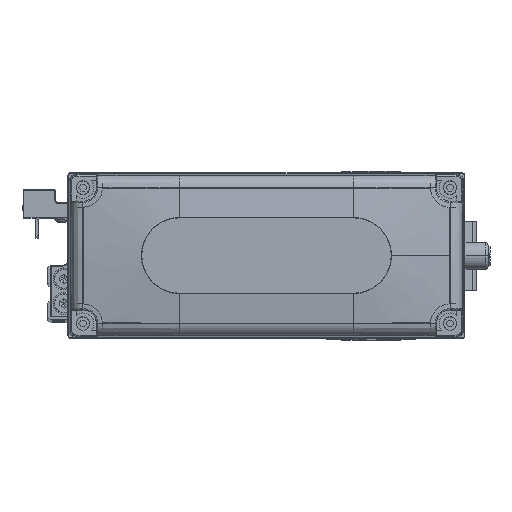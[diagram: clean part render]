
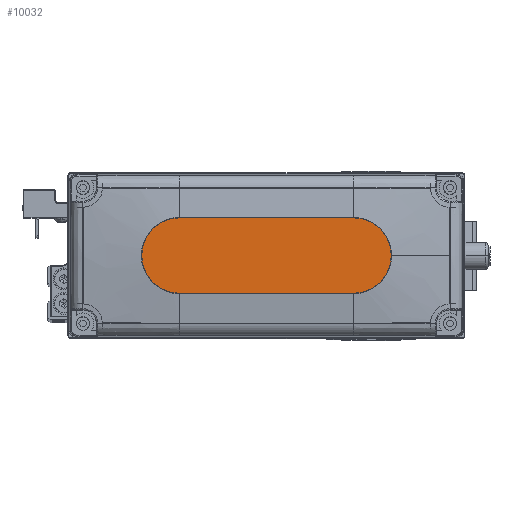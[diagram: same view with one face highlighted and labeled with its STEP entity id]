
A CAD part, top view. The second image highlights one B-rep face of the part: STEP entity #10032.
In plain terms, the highlighted planar face has unit normal (0, 0, 1).
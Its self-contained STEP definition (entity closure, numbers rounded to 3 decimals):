
#1251 = LINE ( 'NONE', #15422, #10325 ) ;
#1398 = AXIS2_PLACEMENT_3D ( 'NONE', #37140, #5364, #19527 ) ;
#2367 = CIRCLE ( 'NONE', #28328, 14. ) ;
#4211 = LINE ( 'NONE', #18378, #33138 ) ;
#4519 = EDGE_CURVE ( 'NONE', #10227, #24646, #2367, .T. ) ;
#5364 = DIRECTION ( 'NONE',  ( 0., 0., 1. ) ) ;
#6584 = EDGE_CURVE ( 'NONE', #9618, #10227, #4211, .T. ) ;
#8254 = VERTEX_POINT ( 'NONE', #25309 ) ;
#8260 = DIRECTION ( 'NONE',  ( 0., 0., 1. ) ) ;
#8428 = DIRECTION ( 'NONE',  ( 1., 0., 0. ) ) ;
#8786 = CARTESIAN_POINT ( 'NONE',  ( 32., 0., 35. ) ) ;
#8861 = FACE_OUTER_BOUND ( 'NONE', #18461, .T. ) ;
#9400 = CIRCLE ( 'NONE', #35344, 14. ) ;
#9618 = VERTEX_POINT ( 'NONE', #30846 ) ;
#10032 = ADVANCED_FACE ( 'NONE', ( #8861 ), #23022, .T. ) ;
#10227 = VERTEX_POINT ( 'NONE', #24632 ) ;
#10325 = VECTOR ( 'NONE', #29574, 1000. ) ;
#11444 = ORIENTED_EDGE ( 'NONE', *, *, #18209, .T. ) ;
#14990 = CARTESIAN_POINT ( 'NONE',  ( 32., 14., 35. ) ) ;
#15422 = CARTESIAN_POINT ( 'NONE',  ( -32., 14., 35. ) ) ;
#16678 = ORIENTED_EDGE ( 'NONE', *, *, #39980, .T. ) ;
#18209 = EDGE_CURVE ( 'NONE', #32241, #8254, #1251, .T. ) ;
#18378 = CARTESIAN_POINT ( 'NONE',  ( -32., -14., 35. ) ) ;
#18461 = EDGE_LOOP ( 'NONE', ( #11444, #16678, #42775, #28993, #34691 ) ) ;
#19527 = DIRECTION ( 'NONE',  ( 1., 0., 0. ) ) ;
#19778 = CIRCLE ( 'NONE', #45646, 14. ) ;
#22418 = DIRECTION ( 'NONE',  ( 1., 0., 0. ) ) ;
#22943 = DIRECTION ( 'NONE',  ( 0., 0., 1. ) ) ;
#23022 = PLANE ( 'NONE',  #1398 ) ;
#24632 = CARTESIAN_POINT ( 'NONE',  ( 32., -14., 35. ) ) ;
#24646 = VERTEX_POINT ( 'NONE', #41644 ) ;
#25309 = CARTESIAN_POINT ( 'NONE',  ( -32., 14., 35. ) ) ;
#26080 = CARTESIAN_POINT ( 'NONE',  ( 32., 0., 35. ) ) ;
#28328 = AXIS2_PLACEMENT_3D ( 'NONE', #8786, #22943, #37063 ) ;
#28993 = ORIENTED_EDGE ( 'NONE', *, *, #4519, .T. ) ;
#29574 = DIRECTION ( 'NONE',  ( -1., 0., 0. ) ) ;
#30846 = CARTESIAN_POINT ( 'NONE',  ( -32., -14., 35. ) ) ;
#32241 = VERTEX_POINT ( 'NONE', #14990 ) ;
#32536 = DIRECTION ( 'NONE',  ( 1., 0., 0. ) ) ;
#33138 = VECTOR ( 'NONE', #32536, 1000. ) ;
#34691 = ORIENTED_EDGE ( 'NONE', *, *, #41692, .T. ) ;
#35344 = AXIS2_PLACEMENT_3D ( 'NONE', #26080, #40183, #8428 ) ;
#37063 = DIRECTION ( 'NONE',  ( 1., 0., 0. ) ) ;
#37140 = CARTESIAN_POINT ( 'NONE',  ( 0., 0., 35. ) ) ;
#39980 = EDGE_CURVE ( 'NONE', #8254, #9618, #19778, .T. ) ;
#40006 = CARTESIAN_POINT ( 'NONE',  ( -32., 0., 35. ) ) ;
#40183 = DIRECTION ( 'NONE',  ( 0., 0., 1. ) ) ;
#41644 = CARTESIAN_POINT ( 'NONE',  ( 46., 0., 35. ) ) ;
#41692 = EDGE_CURVE ( 'NONE', #24646, #32241, #9400, .T. ) ;
#42775 = ORIENTED_EDGE ( 'NONE', *, *, #6584, .T. ) ;
#45646 = AXIS2_PLACEMENT_3D ( 'NONE', #40006, #8260, #22418 ) ;
